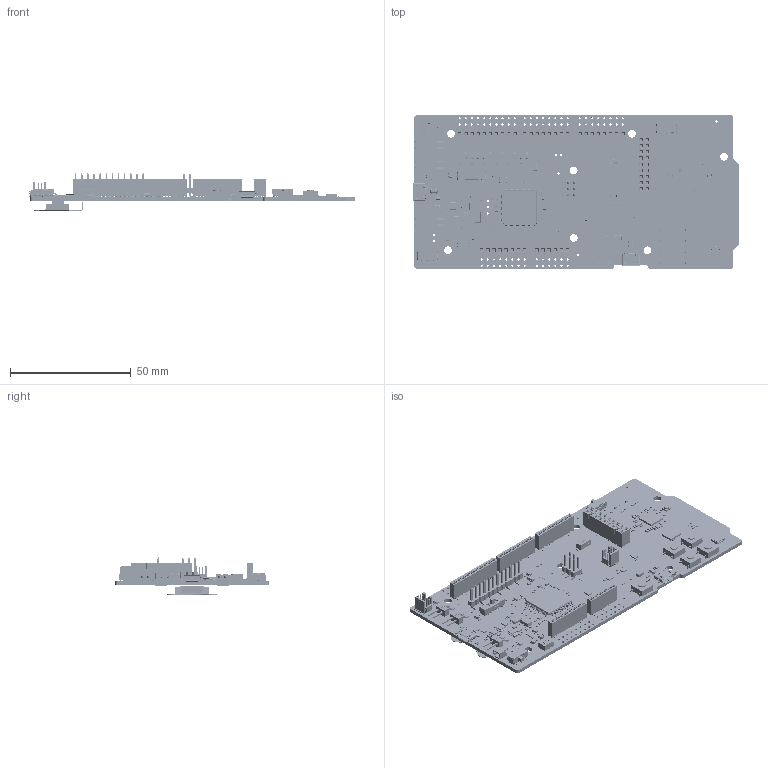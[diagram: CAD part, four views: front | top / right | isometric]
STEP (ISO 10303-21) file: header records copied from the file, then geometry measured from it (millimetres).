
FILE_DESCRIPTION(/* description */ ('Alibre Inc.'),/* implementation_level */ '2;1');
FILE_NAME(/* name */ 'export0',/* time_stamp */ '2018-03-23T23:04:38+00:00',/* author */ (''),/* organization */ (''),/* preprocessor_version */ 'ST-DEVELOPER v14',/* originating_system */ 'Alibre',/* authorisation */ '');
FILE_SCHEMA (('AUTOMOTIVE_DESIGN'));
Length unit declared in the file: millimetre
Bounding box: 135.28 x 63.5 x 15.38 mm (x, y, z)
Volume: 17885.7 mm3; surface area: 30038 mm2
Topology: 643 solids, 647 shells, 22644 faces, 57426 edges, 35767 vertices
Faces by surface type: plane 14571, cylinder 4244, bspline 3372, sphere 409, torus 42, cone 6
Full cylindrical faces by diameter (mm): 0.231 x1, 0.25 x184, 0.562 x1, 0.6 x2, 0.762 x1, 0.8 x3, 0.887 x1, 0.9 x85, 0.991 x3, 1 x5, 1.78 x3, 1.8 x1, 2 x1, 2.05 x1, 2.1 x2, 3.2 x7
Entity records: 276970 total; most frequent: CARTESIAN_POINT 65145, ORIENTED_EDGE 42714, DIRECTION 36318, EDGE_CURVE 21359, VECTOR 17320, LINE 17320, VERTEX_POINT 13594, AXIS2_PLACEMENT_3D 12506
